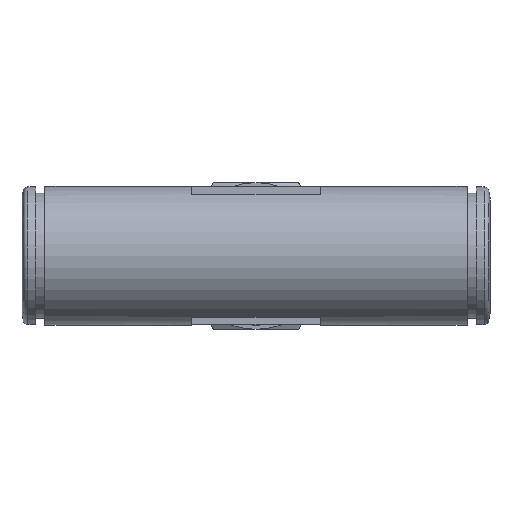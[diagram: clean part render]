
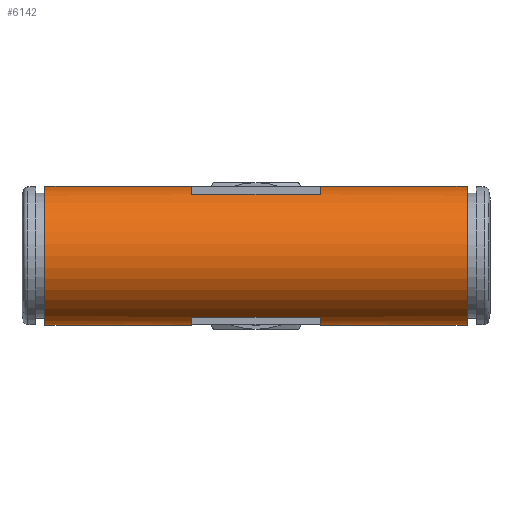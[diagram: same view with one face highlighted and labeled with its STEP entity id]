
A CAD part, top view. The second image highlights one B-rep face of the part: STEP entity #6142.
In plain terms, the highlighted cylindrical face has radius 7.55 mm (diameter 15.1 mm), a full revolution.
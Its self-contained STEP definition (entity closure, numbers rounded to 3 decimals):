
#11=ELLIPSE('',#5952,10.677,7.55);
#12=ELLIPSE('',#5959,10.677,7.55);
#1245=VECTOR('',#3885,1.);
#1246=VECTOR('',#3892,1.);
#1247=VECTOR('',#3895,1.);
#1248=VECTOR('',#3902,1.);
#1249=VECTOR('',#3909,1.);
#1250=VECTOR('',#3912,1.);
#1309=LINE('',#5557,#1245);
#1310=LINE('',#5565,#1246);
#1311=LINE('',#5569,#1247);
#1312=LINE('',#5577,#1248);
#1313=LINE('',#5585,#1249);
#1314=LINE('',#5589,#1250);
#1428=CYLINDRICAL_SURFACE('',#5945,7.55);
#1625=ORIENTED_EDGE('',*,*,#2210,.F.);
#1626=ORIENTED_EDGE('',*,*,#2209,.T.);
#1627=ORIENTED_EDGE('',*,*,#2211,.F.);
#1628=ORIENTED_EDGE('',*,*,#2212,.F.);
#1629=ORIENTED_EDGE('',*,*,#2213,.F.);
#1630=ORIENTED_EDGE('',*,*,#2214,.F.);
#1631=ORIENTED_EDGE('',*,*,#2215,.F.);
#1632=ORIENTED_EDGE('',*,*,#2216,.F.);
#1633=ORIENTED_EDGE('',*,*,#2217,.F.);
#1634=ORIENTED_EDGE('',*,*,#2218,.F.);
#1635=ORIENTED_EDGE('',*,*,#2219,.F.);
#1636=ORIENTED_EDGE('',*,*,#2220,.F.);
#1637=ORIENTED_EDGE('',*,*,#2221,.F.);
#1638=ORIENTED_EDGE('',*,*,#2222,.F.);
#1639=ORIENTED_EDGE('',*,*,#2223,.F.);
#1640=ORIENTED_EDGE('',*,*,#2224,.F.);
#1641=ORIENTED_EDGE('',*,*,#2225,.F.);
#1642=ORIENTED_EDGE('',*,*,#2226,.F.);
#1643=ORIENTED_EDGE('',*,*,#2227,.F.);
#1644=ORIENTED_EDGE('',*,*,#2228,.F.);
#1645=ORIENTED_EDGE('',*,*,#2229,.F.);
#1646=ORIENTED_EDGE('',*,*,#2230,.F.);
#1914=CIRCLE('',#5944,7.55);
#1915=CIRCLE('',#5946,7.55);
#1916=CIRCLE('',#5947,7.55);
#1917=CIRCLE('',#5948,7.55);
#1918=CIRCLE('',#5949,7.55);
#1919=CIRCLE('',#5950,7.55);
#1920=CIRCLE('',#5951,7.55);
#1921=CIRCLE('',#5953,7.55);
#1922=CIRCLE('',#5954,7.55);
#1923=CIRCLE('',#5955,7.55);
#1924=CIRCLE('',#5956,7.55);
#1925=CIRCLE('',#5957,7.55);
#1926=CIRCLE('',#5958,7.55);
#1927=CIRCLE('',#5960,7.55);
#2042=VERTEX_POINT('',#5546);
#2043=VERTEX_POINT('',#5549);
#2044=VERTEX_POINT('',#5551);
#2045=VERTEX_POINT('',#5552);
#2046=VERTEX_POINT('',#5554);
#2047=VERTEX_POINT('',#5556);
#2048=VERTEX_POINT('',#5558);
#2049=VERTEX_POINT('',#5560);
#2050=VERTEX_POINT('',#5562);
#2051=VERTEX_POINT('',#5564);
#2052=VERTEX_POINT('',#5566);
#2053=VERTEX_POINT('',#5568);
#2054=VERTEX_POINT('',#5570);
#2055=VERTEX_POINT('',#5572);
#2056=VERTEX_POINT('',#5574);
#2057=VERTEX_POINT('',#5576);
#2058=VERTEX_POINT('',#5578);
#2059=VERTEX_POINT('',#5580);
#2060=VERTEX_POINT('',#5582);
#2061=VERTEX_POINT('',#5584);
#2062=VERTEX_POINT('',#5586);
#2063=VERTEX_POINT('',#5588);
#2209=EDGE_CURVE('',#2042,#2042,#1914,.T.);
#2210=EDGE_CURVE('',#2043,#2043,#1915,.T.);
#2211=EDGE_CURVE('',#2044,#2045,#1916,.T.);
#2212=EDGE_CURVE('',#2046,#2044,#1917,.T.);
#2213=EDGE_CURVE('',#2047,#2046,#1309,.T.);
#2214=EDGE_CURVE('',#2048,#2047,#1918,.T.);
#2215=EDGE_CURVE('',#2049,#2048,#1919,.T.);
#2216=EDGE_CURVE('',#2050,#2049,#1920,.T.);
#2217=EDGE_CURVE('',#2051,#2050,#1310,.T.);
#2218=EDGE_CURVE('',#2052,#2051,#11,.T.);
#2219=EDGE_CURVE('',#2053,#2052,#1311,.T.);
#2220=EDGE_CURVE('',#2054,#2053,#1921,.T.);
#2221=EDGE_CURVE('',#2055,#2054,#1922,.T.);
#2222=EDGE_CURVE('',#2056,#2055,#1923,.T.);
#2223=EDGE_CURVE('',#2057,#2056,#1312,.T.);
#2224=EDGE_CURVE('',#2058,#2057,#1924,.T.);
#2225=EDGE_CURVE('',#2059,#2058,#1925,.T.);
#2226=EDGE_CURVE('',#2060,#2059,#1926,.T.);
#2227=EDGE_CURVE('',#2061,#2060,#1313,.T.);
#2228=EDGE_CURVE('',#2062,#2061,#12,.T.);
#2229=EDGE_CURVE('',#2063,#2062,#1314,.T.);
#2230=EDGE_CURVE('',#2045,#2063,#1927,.T.);
#2406=EDGE_LOOP('',(#1625));
#2407=EDGE_LOOP('',(#1626));
#2408=EDGE_LOOP('',(#1627,#1628,#1629,#1630,#1631,#1632,#1633,#1634,#1635,
#1636,#1637,#1638,#1639,#1640,#1641,#1642,#1643,#1644,#1645,#1646));
#2600=FACE_BOUND('',#2406,.T.);
#2601=FACE_BOUND('',#2407,.T.);
#2602=FACE_BOUND('',#2408,.T.);
#3875=DIRECTION('',(1.,0.,0.));
#3876=DIRECTION('',(0.,7.55,0.));
#3877=DIRECTION('',(-1.,0.,0.));
#3878=DIRECTION('',(0.,1.,0.));
#3879=DIRECTION('',(1.,0.,0.));
#3880=DIRECTION('',(0.,7.55,0.));
#3881=DIRECTION('',(-1.,0.,0.));
#3882=DIRECTION('',(0.,0.867,-7.5));
#3883=DIRECTION('',(-1.,0.,0.));
#3884=DIRECTION('',(0.,3.5,-6.69));
#3885=DIRECTION('',(14.,0.,0.));
#3886=DIRECTION('',(1.,0.,0.));
#3887=DIRECTION('',(0.,0.867,-7.5));
#3888=DIRECTION('',(1.,0.,0.));
#3889=DIRECTION('',(0.,-0.867,-7.5));
#3890=DIRECTION('',(1.,0.,0.));
#3891=DIRECTION('',(0.,-3.5,-6.69));
#3892=DIRECTION('',(-3.5,0.,0.));
#3893=DIRECTION('',(0.707,-0.707,0.));
#3894=DIRECTION('',(-0.707,-0.707,0.));
#3895=DIRECTION('',(3.5,0.,0.));
#3896=DIRECTION('',(1.,0.,0.));
#3897=DIRECTION('',(0.,-0.867,7.5));
#3898=DIRECTION('',(1.,0.,0.));
#3899=DIRECTION('',(0.,0.867,7.5));
#3900=DIRECTION('',(1.,0.,0.));
#3901=DIRECTION('',(0.,3.5,6.69));
#3902=DIRECTION('',(-14.,0.,0.));
#3903=DIRECTION('',(-1.,0.,0.));
#3904=DIRECTION('',(0.,0.867,7.5));
#3905=DIRECTION('',(-1.,0.,0.));
#3906=DIRECTION('',(0.,-0.867,7.5));
#3907=DIRECTION('',(-1.,0.,0.));
#3908=DIRECTION('',(0.,-3.5,6.69));
#3909=DIRECTION('',(3.5,0.,0.));
#3910=DIRECTION('',(-0.707,-0.707,0.));
#3911=DIRECTION('',(0.707,-0.707,0.));
#3912=DIRECTION('',(-3.5,0.,0.));
#3913=DIRECTION('',(-1.,0.,0.));
#3914=DIRECTION('',(0.,-0.867,-7.5));
#5546=CARTESIAN_POINT('',(15.312,39.674,0.));
#5547=CARTESIAN_POINT('',(15.312,32.124,0.));
#5548=CARTESIAN_POINT('',(61.312,32.124,0.));
#5549=CARTESIAN_POINT('',(61.312,39.674,0.));
#5550=CARTESIAN_POINT('',(61.312,32.124,0.));
#5551=CARTESIAN_POINT('',(45.312,32.992,-7.5));
#5552=CARTESIAN_POINT('',(45.312,31.257,-7.5));
#5553=CARTESIAN_POINT('',(45.312,32.124,0.));
#5554=CARTESIAN_POINT('',(45.312,35.624,-6.69));
#5555=CARTESIAN_POINT('',(45.312,32.124,0.));
#5556=CARTESIAN_POINT('',(31.312,35.624,-6.69));
#5557=CARTESIAN_POINT('',(31.312,35.624,-6.69));
#5558=CARTESIAN_POINT('',(31.312,32.992,-7.5));
#5559=CARTESIAN_POINT('',(31.312,32.124,0.));
#5560=CARTESIAN_POINT('',(31.312,31.257,-7.5));
#5561=CARTESIAN_POINT('',(31.312,32.124,0.));
#5562=CARTESIAN_POINT('',(31.312,28.624,-6.69));
#5563=CARTESIAN_POINT('',(31.312,32.124,0.));
#5564=CARTESIAN_POINT('',(34.812,28.624,-6.69));
#5565=CARTESIAN_POINT('',(34.812,28.624,-6.69));
#5566=CARTESIAN_POINT('',(34.812,28.624,6.69));
#5567=CARTESIAN_POINT('',(38.312,32.124,0.));
#5568=CARTESIAN_POINT('',(31.312,28.624,6.69));
#5569=CARTESIAN_POINT('',(31.312,28.624,6.69));
#5570=CARTESIAN_POINT('',(31.312,31.257,7.5));
#5571=CARTESIAN_POINT('',(31.312,32.124,0.));
#5572=CARTESIAN_POINT('',(31.312,32.992,7.5));
#5573=CARTESIAN_POINT('',(31.312,32.124,0.));
#5574=CARTESIAN_POINT('',(31.312,35.624,6.69));
#5575=CARTESIAN_POINT('',(31.312,32.124,0.));
#5576=CARTESIAN_POINT('',(45.312,35.624,6.69));
#5577=CARTESIAN_POINT('',(45.312,35.624,6.69));
#5578=CARTESIAN_POINT('',(45.312,32.992,7.5));
#5579=CARTESIAN_POINT('',(45.312,32.124,0.));
#5580=CARTESIAN_POINT('',(45.312,31.257,7.5));
#5581=CARTESIAN_POINT('',(45.312,32.124,0.));
#5582=CARTESIAN_POINT('',(45.312,28.624,6.69));
#5583=CARTESIAN_POINT('',(45.312,32.124,0.));
#5584=CARTESIAN_POINT('',(41.812,28.624,6.69));
#5585=CARTESIAN_POINT('',(41.812,28.624,6.69));
#5586=CARTESIAN_POINT('',(41.812,28.624,-6.69));
#5587=CARTESIAN_POINT('',(38.312,32.124,0.));
#5588=CARTESIAN_POINT('',(45.312,28.624,-6.69));
#5589=CARTESIAN_POINT('',(45.312,28.624,-6.69));
#5590=CARTESIAN_POINT('',(45.312,32.124,0.));
#5944=AXIS2_PLACEMENT_3D('',#5547,#3875,#3876);
#5945=AXIS2_PLACEMENT_3D('',#5548,#3877,#3878);
#5946=AXIS2_PLACEMENT_3D('',#5550,#3879,#3880);
#5947=AXIS2_PLACEMENT_3D('',#5553,#3881,#3882);
#5948=AXIS2_PLACEMENT_3D('',#5555,#3883,#3884);
#5949=AXIS2_PLACEMENT_3D('',#5559,#3886,#3887);
#5950=AXIS2_PLACEMENT_3D('',#5561,#3888,#3889);
#5951=AXIS2_PLACEMENT_3D('',#5563,#3890,#3891);
#5952=AXIS2_PLACEMENT_3D('',#5567,#3893,#3894);
#5953=AXIS2_PLACEMENT_3D('',#5571,#3896,#3897);
#5954=AXIS2_PLACEMENT_3D('',#5573,#3898,#3899);
#5955=AXIS2_PLACEMENT_3D('',#5575,#3900,#3901);
#5956=AXIS2_PLACEMENT_3D('',#5579,#3903,#3904);
#5957=AXIS2_PLACEMENT_3D('',#5581,#3905,#3906);
#5958=AXIS2_PLACEMENT_3D('',#5583,#3907,#3908);
#5959=AXIS2_PLACEMENT_3D('',#5587,#3910,#3911);
#5960=AXIS2_PLACEMENT_3D('',#5590,#3913,#3914);
#6142=ADVANCED_FACE('',(#2600,#2601,#2602),#1428,.T.);
